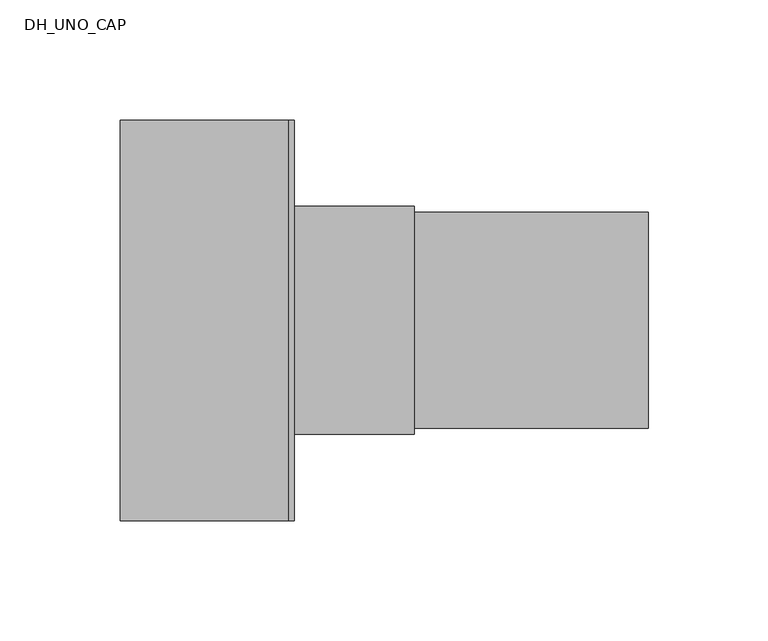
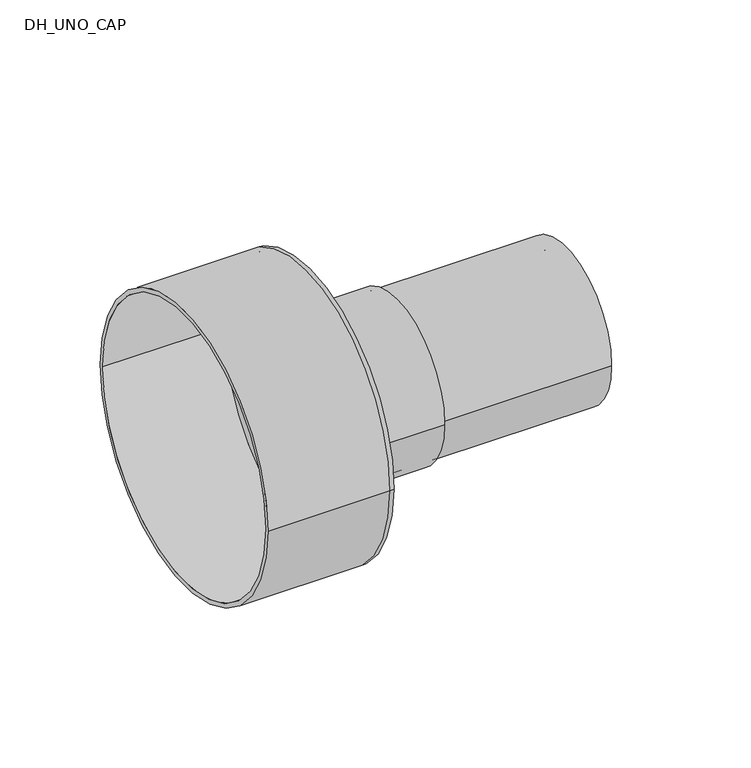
"""IFC4 building model written with IfcOpenShell, lengths in millimetres: pipe fitting geometry, DH_UNO_CAP : RAUTHERMEX UNO 11 COOL - Rubber Cap."""

from ifc_helpers import new_model, si_unit, point, frame, origin, origin_2d, place, context, project, spatial, polyline, circle_curve, trimmed, segment, composite_curve, outline, extrude, source, transform, mapped, element, save
from ifc_brep_helpers import plane_surface, cylinder_surface, revolved_surface, advanced_brep


def dh_uno_cap_33b70dba(model_context):
    return source(origin(), model_context, "Body", "SolidModel", [
        extrude(outline(composite_curve([segment(trimmed(circle_curve(origin_2d(), 45.0), [point((-45.0, 0.0))], [point((45.0, 0.0))], False, "CARTESIAN"), True, "CONTINUOUS"), segment(trimmed(circle_curve(origin_2d(), 45.0), [point((45.0, 0.0))], [point((-45.0, 0.0))], False, "CARTESIAN"), True, "CONTINUOUS")], self_intersect=False), holes=[composite_curve([segment(trimmed(circle_curve(origin_2d(), 36.8), [point((-36.8, 0.0))], [point((36.8, 0.0))], True, "CARTESIAN"), True, "CONTINUOUS"), segment(trimmed(circle_curve(origin_2d(), 36.8), [point((36.8, 0.0))], [point((-36.8, 0.0))], True, "CARTESIAN"), True, "CONTINUOUS")], self_intersect=False)]), frame((0.0, 0.0, 0.0), z_axis=(1.0, 0.0, 0.0), x_axis=(0.0, 1.0, 0.0)), (0.0, 0.0, 1.0), 150.0),
        advanced_brep(
        [(-70.0, -83.5, 0.0), (-70.0, 83.5, 0.0), (-70.0, -81.0, 0.0), (-70.0, 81.0, 0.0), (0.0, -81.0, 0.0), (0.0, 81.0, 0.0), (0.0, -83.5, 0.0), (0.0, 83.5, 0.0), (0.0, 45.0, 0.0), (0.0, -45.0, 0.0), (2.5, -83.5, 0.0), (2.5, 83.5, 0.0), (2.5, -45.0, 0.0), (2.5, 45.0, 0.0)],
        [
            (0, 1, circle_curve(frame((-70.0, 0.0, 0.0), z_axis=(-1.0, 0.0, 0.0), x_axis=(0.0, 1.0, 0.0)), 83.5)),
            (1, 0, circle_curve(frame((-70.0, 0.0, 0.0), z_axis=(-1.0, 0.0, 0.0), x_axis=(0.0, 1.0, 0.0)), 83.5)),
            (2, 3, circle_curve(frame((-70.0, 0.0, 0.0), z_axis=(1.0, 0.0, 0.0), x_axis=(0.0, 1.0, 0.0)), 81.0)),
            (3, 2, circle_curve(frame((-70.0, 0.0, 0.0), z_axis=(1.0, 0.0, 0.0), x_axis=(0.0, 1.0, 0.0)), 81.0)),
            (2, 4),
            (4, 5, circle_curve(frame((0.0, 0.0, 0.0), z_axis=(1.0, 0.0, 0.0), x_axis=(0.0, 1.0, 0.0)), 81.0)),
            (5, 3),
            (5, 4, circle_curve(frame((0.0, 0.0, 0.0), z_axis=(1.0, 0.0, 0.0), x_axis=(0.0, 1.0, 0.0)), 81.0)),
            (0, 6),
            (6, 7, circle_curve(frame((0.0, 0.0, 0.0), z_axis=(-1.0, 0.0, 0.0), x_axis=(0.0, 1.0, 0.0)), 83.5)),
            (7, 1),
            (7, 6, circle_curve(frame((0.0, 0.0, 0.0), z_axis=(-1.0, 0.0, 0.0), x_axis=(0.0, 1.0, 0.0)), 83.5)),
            (8, 9, circle_curve(frame((0.0, 0.0, 0.0), z_axis=(1.0, 0.0, 0.0), x_axis=(0.0, 1.0, 0.0)), 45.0)),
            (9, 8, circle_curve(frame((0.0, 0.0, 0.0), z_axis=(1.0, 0.0, 0.0), x_axis=(0.0, 1.0, 0.0)), 45.0)),
            (10, 11, circle_curve(frame((2.5, 0.0, 0.0), z_axis=(1.0, 0.0, 0.0), x_axis=(0.0, 1.0, 0.0)), 83.5)),
            (11, 10, circle_curve(frame((2.5, 0.0, 0.0), z_axis=(1.0, 0.0, 0.0), x_axis=(0.0, 1.0, 0.0)), 83.5)),
            (12, 13, circle_curve(frame((2.5, 0.0, 0.0), z_axis=(-1.0, 0.0, 0.0), x_axis=(0.0, 1.0, 0.0)), 45.0)),
            (13, 12, circle_curve(frame((2.5, 0.0, 0.0), z_axis=(-1.0, 0.0, 0.0), x_axis=(0.0, 1.0, 0.0)), 45.0)),
            (11, 7),
            (6, 10),
            (8, 13),
            (12, 9),
        ],
        [
            plane_surface(frame((-70.0, 0.0, 0.0), z_axis=(-1.0, 0.0, 0.0), x_axis=(0.0, 0.0, 1.0))),
            revolved_surface(polyline([(0.0, 81.0, 0.0), (-70.0, 81.0, 0.0)]), (-70.0, 0.0, 0.0), (1.0, 0.0, 0.0)),
            cylinder_surface(frame((-70.0, 0.0, 0.0), z_axis=(-1.0, 0.0, 0.0), x_axis=(0.0, 1.0, 0.0)), 83.5),
            plane_surface(frame((0.0, 0.0, 0.0), z_axis=(-1.0, 0.0, 0.0), x_axis=(0.0, 0.0, 1.0))),
            plane_surface(frame((2.5, 0.0, 0.0), z_axis=(1.0, 0.0, 0.0), x_axis=(0.0, 0.0, 1.0))),
            cylinder_surface(frame((0.0, 0.0, 0.0), z_axis=(-1.0, 0.0, 0.0), x_axis=(0.0, 1.0, 0.0)), 83.5),
            revolved_surface(polyline([(0.0, 45.0, 0.0), (2.5, 45.0, 0.0)]), (0.0, 0.0, 0.0), (-1.0, 0.0, 0.0)),
        ],
        [
            (0, [[1, 2], [3, 4]]),
            (1, [[-3, 5, 6, 7]]),
            (1, [[-4, -7, 8, -5]]),
            (2, [[-1, 9, 10, 11]]),
            (2, [[-2, -11, 12, -9]]),
            (3, [[-6, -8], [13, 14]]),
            (4, [[15, 16], [17, 18]]),
            (5, [[-16, 19, -10, 20]]),
            (5, [[-15, -20, -12, -19]]),
            (6, [[21, -17, 22, -13]]),
            (6, [[-21, -14, -22, -18]]),
        ],
    ),
        extrude(outline(composite_curve([segment(trimmed(circle_curve(origin_2d(), 47.5), [point((-47.5, 0.0))], [point((47.5, 0.0))], False, "CARTESIAN"), True, "CONTINUOUS"), segment(trimmed(circle_curve(origin_2d(), 47.5), [point((47.5, 0.0))], [point((-47.5, 0.0))], False, "CARTESIAN"), True, "CONTINUOUS")], self_intersect=False), holes=[composite_curve([segment(trimmed(circle_curve(origin_2d(), 45.0), [point((-45.0, 0.0))], [point((45.0, 0.0))], True, "CARTESIAN"), True, "CONTINUOUS"), segment(trimmed(circle_curve(origin_2d(), 45.0), [point((45.0, 0.0))], [point((-45.0, 0.0))], True, "CARTESIAN"), True, "CONTINUOUS")], self_intersect=False)]), frame((2.5, 0.0, 0.0), z_axis=(1.0, 0.0, 0.0), x_axis=(0.0, 1.0, 0.0)), (0.0, 0.0, 1.0), 50.0),
    ])


if __name__ == "__main__":
    model = new_model("IFC4")
    model_context = context("Model", 3, world=origin())
    ifc_project = project(units=[si_unit("LENGTHUNIT", "METRE", prefix="MILLI")], contexts=[model_context])
    site = spatial("IfcSite", under=ifc_project)
    building = spatial("IfcBuilding", under=site)
    placement = place(None, origin())
    dh_uno_cap_shape = dh_uno_cap_33b70dba(model_context)
    element("IfcPipeFitting", 1, ObjectType="DH_UNO_CAP : RAUTHERMEX UNO 11 COOL - Rubber Cap", at=placement, inside=building, context=model_context, shape_type="MappedRepresentation", body=[
        mapped(dh_uno_cap_shape, transform((0.0, 0.0, 0.0), x_axis=(1.0, 0.0, 0.0), y_axis=(0.0, 1.0, 0.0), z_axis=(0.0, 0.0, 1.0))),
    ])
    save(model, "model.ifc")
